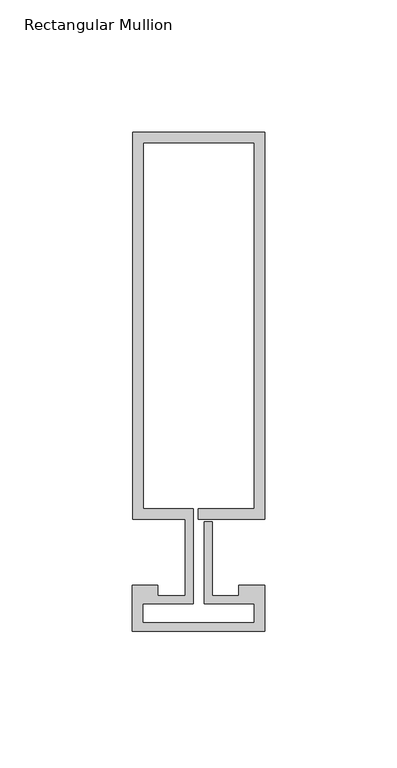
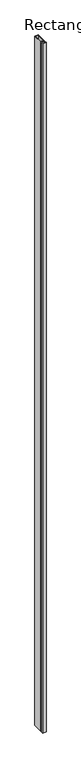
"""IFC4 building model written with IfcOpenShell, lengths in millimetres: member geometry, Rectangular Mullion : Reynaers_CW-50_Mullion-Transom_Vertical_146.5mm_Facecap-02B."""

from ifc_helpers import new_model, si_unit, frame, origin, place, context, project, spatial, polyline, outline, extrude, source, transform, mapped, element, save


def rectangular_mullion_4f774b57(model_context):
    return source(origin(), model_context, "Body", "SweptSolid", [
        extrude(outline(polyline([(-24.8004059, 159.0), (25.1995941, 159.0), (25.1995941, 12.5), (0.0, 12.5), (0.0, 16.5), (21.1995941, 16.5), (21.1995941, 155.0), (-20.8004059, 155.0), (-20.8004059, 16.5), (-1.9004059, 16.5), (-1.9004059, -19.5), (-20.994845, -19.5), (-20.994845, -26.7191338), (21.1995941, -26.7191338), (21.1995941, -19.5), (2.2995941, -19.5), (2.2995941, 11.5), (5.2995941, 11.5), (5.2995941, -16.5), (15.2996495, -16.5), (15.2996495, -12.5), (25.1995941, -12.5), (25.1995941, -29.8), (-24.994845, -29.8), (-24.994845, -12.5), (-15.2996495, -12.5), (-15.2996495, -16.5), (-4.9004059, -16.5), (-4.9004059, 12.5), (-24.8004059, 12.5), (-24.8004059, 159.0)])), frame((0.0, 0.0, -10400.0), z_axis=(0.0, 0.0, 1.0), x_axis=(1.0, 0.0, 0.0)), (0.0, 0.0, 1.0), 10400.0),
    ])


if __name__ == "__main__":
    model = new_model("IFC4")
    model_context = context("Model", 3, world=origin())
    ifc_project = project(units=[si_unit("LENGTHUNIT", "METRE", prefix="MILLI")], contexts=[model_context])
    site = spatial("IfcSite", under=ifc_project)
    building = spatial("IfcBuilding", under=site)
    placement = place(None, origin())
    rectangular_mullion_shape = rectangular_mullion_4f774b57(model_context)
    element("IfcMember", 1, ObjectType="Rectangular Mullion : Reynaers_CW-50_Mullion-Transom_Vertical_146.5mm_Facecap-02B", at=placement, inside=building, context=model_context, shape_type="MappedRepresentation", body=[
        mapped(rectangular_mullion_shape, transform((0.0, 0.0, 0.0), x_axis=(1.0, 0.0, 0.0), y_axis=(0.0, 1.0, 0.0), z_axis=(0.0, 0.0, 1.0))),
    ])
    save(model, "model.ifc")
